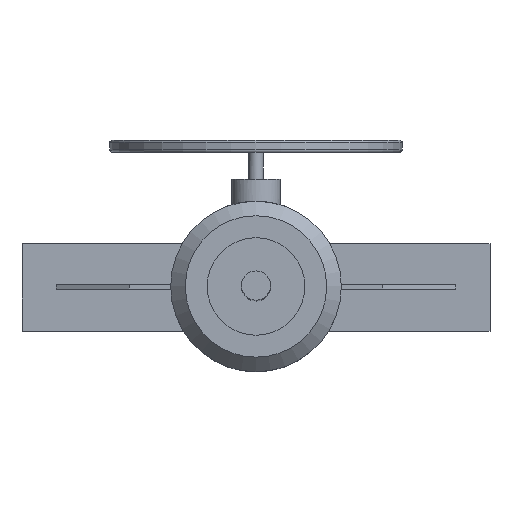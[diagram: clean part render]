
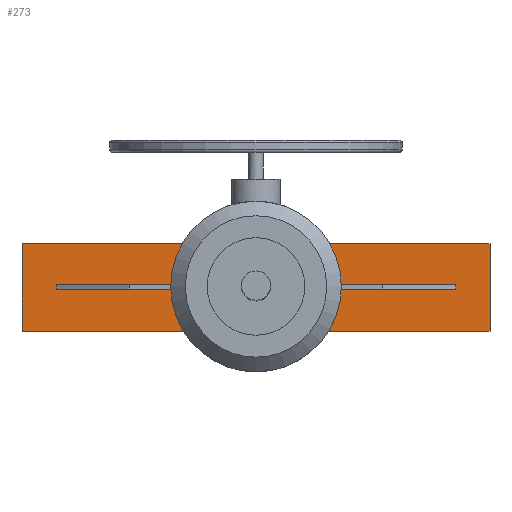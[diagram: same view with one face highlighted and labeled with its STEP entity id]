
A CAD part, top view. The second image highlights one B-rep face of the part: STEP entity #273.
In plain terms, the highlighted planar face has unit normal (0, 0, 1).
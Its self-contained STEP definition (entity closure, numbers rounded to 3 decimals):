
#273=ADVANCED_FACE('',(#2755,#2757),#2759,.T.);
#2755=FACE_BOUND('',#2756,.T.);
#2756=EDGE_LOOP('',(#4867,#4868,#4869,#4870,#4871,#4872,#4873,#4874));
#2757=FACE_BOUND('',#2758,.T.);
#2758=EDGE_LOOP('',(#4875,#4876,#4877,#4878));
#2759=PLANE('',#2760);
#2760=AXIS2_PLACEMENT_3D('',#2761,#2762,#2763);
#2761=CARTESIAN_POINT('',(0.,0.,810.));
#2762=DIRECTION('',(0.,0.,1.));
#2763=DIRECTION('',(1.,0.,0.));
#4867=ORIENTED_EDGE('',*,*,#6047,.F.);
#4868=ORIENTED_EDGE('',*,*,#6045,.T.);
#4869=ORIENTED_EDGE('',*,*,#6058,.T.);
#4870=ORIENTED_EDGE('',*,*,#6051,.T.);
#4871=ORIENTED_EDGE('',*,*,#6050,.F.);
#4872=ORIENTED_EDGE('',*,*,#6055,.T.);
#4873=ORIENTED_EDGE('',*,*,#6059,.T.);
#4874=ORIENTED_EDGE('',*,*,#6041,.T.);
#4875=ORIENTED_EDGE('',*,*,#6060,.F.);
#4876=ORIENTED_EDGE('',*,*,#6061,.F.);
#4877=ORIENTED_EDGE('',*,*,#6062,.F.);
#4878=ORIENTED_EDGE('',*,*,#6063,.F.);
#6041=EDGE_CURVE('',#6694,#6677,#6695,.T.);
#6045=EDGE_CURVE('',#6657,#6700,#6702,.T.);
#6047=EDGE_CURVE('',#6657,#6677,#6704,.T.);
#6050=EDGE_CURVE('',#6671,#6663,#6708,.T.);
#6051=EDGE_CURVE('',#6709,#6663,#6710,.T.);
#6055=EDGE_CURVE('',#6671,#6715,#6717,.T.);
#6058=EDGE_CURVE('',#6700,#6709,#6722,.T.);
#6059=EDGE_CURVE('',#6715,#6694,#6723,.T.);
#6060=EDGE_CURVE('',#6724,#6725,#6726,.T.);
#6061=EDGE_CURVE('',#6727,#6724,#6728,.F.);
#6062=EDGE_CURVE('',#6729,#6727,#6730,.T.);
#6063=EDGE_CURVE('',#6725,#6729,#6731,.T.);
#6657=VERTEX_POINT('',#7770);
#6663=VERTEX_POINT('',#7782);
#6671=VERTEX_POINT('',#7800);
#6677=VERTEX_POINT('',#7812);
#6694=VERTEX_POINT('',#7860);
#6695=LINE('',#7861,#7862);
#6700=VERTEX_POINT('',#7872);
#6702=LINE('',#7876,#7877);
#6704=LINE('',#7882,#7883);
#6708=LINE('',#7893,#7894);
#6709=VERTEX_POINT('',#7896);
#6710=LINE('',#7897,#7898);
#6715=VERTEX_POINT('',#7908);
#6717=LINE('',#7912,#7913);
#6722=LINE('',#7925,#7926);
#6723=LINE('',#7928,#7929);
#6724=VERTEX_POINT('',#7931);
#6725=VERTEX_POINT('',#7932);
#6726=LINE('',#7933,#7934);
#6727=VERTEX_POINT('',#7936);
#6728=LINE('',#7937,#7938);
#6729=VERTEX_POINT('',#7940);
#6730=LINE('',#7941,#7942);
#6731=LINE('',#7944,#7945);
#7770=CARTESIAN_POINT('',(140.,-90.,810.));
#7782=CARTESIAN_POINT('',(140.,90.,810.));
#7800=CARTESIAN_POINT('',(-140.,90.,810.));
#7812=CARTESIAN_POINT('',(-140.,-90.,810.));
#7860=CARTESIAN_POINT('',(-480.,-90.,810.));
#7861=CARTESIAN_POINT('',(-480.,-90.,810.));
#7862=VECTOR('',#7863,1.);
#7863=DIRECTION('',(1.,0.,0.));
#7872=CARTESIAN_POINT('',(480.,-90.,810.));
#7876=CARTESIAN_POINT('',(140.,-90.,810.));
#7877=VECTOR('',#7878,1.);
#7878=DIRECTION('',(1.,0.,0.));
#7882=CARTESIAN_POINT('',(140.,-90.,810.));
#7883=VECTOR('',#7884,1.);
#7884=DIRECTION('',(-1.,0.,0.));
#7893=CARTESIAN_POINT('',(-140.,90.,810.));
#7894=VECTOR('',#7895,1.);
#7895=DIRECTION('',(1.,0.,0.));
#7896=CARTESIAN_POINT('',(480.,90.,810.));
#7897=CARTESIAN_POINT('',(480.,90.,810.));
#7898=VECTOR('',#7899,1.);
#7899=DIRECTION('',(-1.,0.,0.));
#7908=CARTESIAN_POINT('',(-480.,90.,810.));
#7912=CARTESIAN_POINT('',(-140.,90.,810.));
#7913=VECTOR('',#7914,1.);
#7914=DIRECTION('',(-1.,0.,0.));
#7925=CARTESIAN_POINT('',(480.,-90.,810.));
#7926=VECTOR('',#7927,1.);
#7927=DIRECTION('',(0.,1.,0.));
#7928=CARTESIAN_POINT('',(-480.,90.,810.));
#7929=VECTOR('',#7930,1.);
#7930=DIRECTION('',(0.,-1.,0.));
#7931=CARTESIAN_POINT('',(-410.,5.,810.));
#7932=CARTESIAN_POINT('',(-410.,-5.,810.));
#7933=CARTESIAN_POINT('',(-410.,5.,810.));
#7934=VECTOR('',#7935,1.);
#7935=DIRECTION('',(0.,-1.,0.));
#7936=CARTESIAN_POINT('',(410.,5.,810.));
#7937=CARTESIAN_POINT('',(-410.,5.,810.));
#7938=VECTOR('',#7939,1.);
#7939=DIRECTION('',(1.,0.,0.));
#7940=CARTESIAN_POINT('',(410.,-5.,810.));
#7941=CARTESIAN_POINT('',(410.,-5.,810.));
#7942=VECTOR('',#7943,1.);
#7943=DIRECTION('',(0.,1.,0.));
#7944=CARTESIAN_POINT('',(-410.,-5.,810.));
#7945=VECTOR('',#7946,1.);
#7946=DIRECTION('',(1.,0.,0.));
